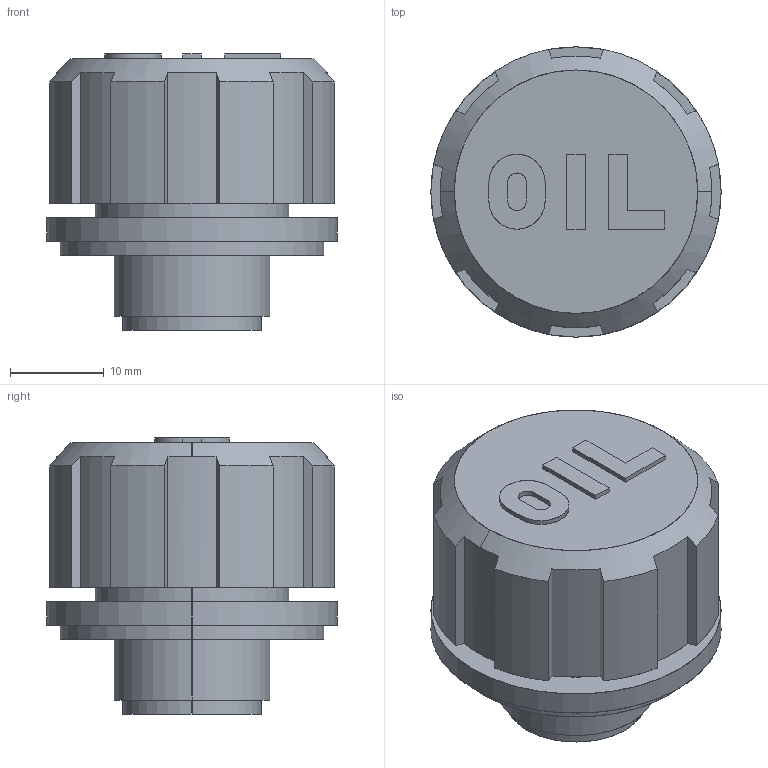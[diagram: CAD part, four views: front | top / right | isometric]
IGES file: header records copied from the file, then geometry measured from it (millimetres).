
Start section: SolidWorks IGES file using analytic representation for surfaces
Global section: file name: X:\11_SW2020-Inv2020\00_全2021-11新製品まで\b\BM-3_8\bm-3_8.IGS; native system: SolidWorks 2020; preprocessor: SolidWorks 2020; author: ImaoCorp; date: 211025.093852; units: millimetre
Bounding box: 31 x 31 x 29.5 mm (x, y, z)
Surface area: 5082.1 mm2 (no closed solid volume)
Topology: 0 solids, 0 shells, 77 faces, 1057 edges, 1057 vertices
Faces by surface type: bspline 42, revolution 35
